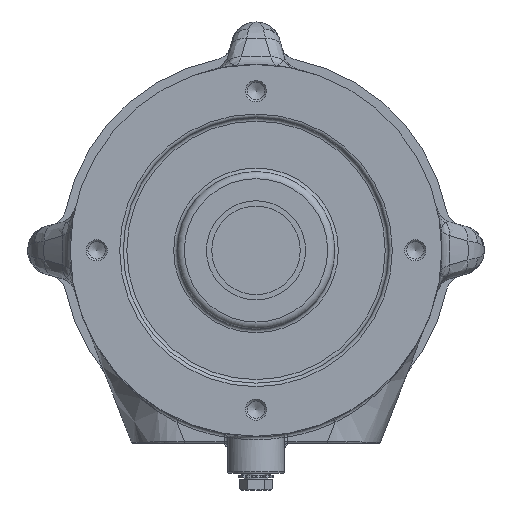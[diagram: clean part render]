
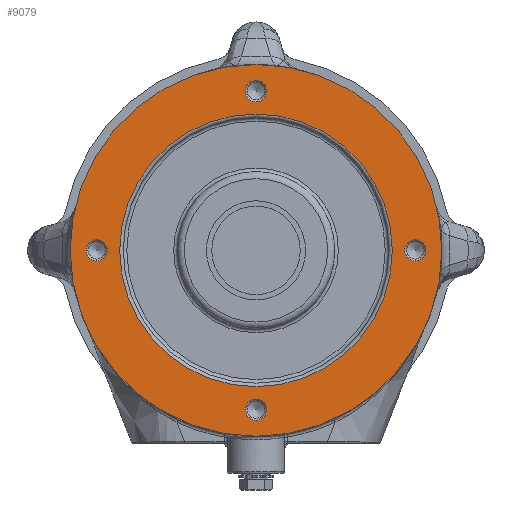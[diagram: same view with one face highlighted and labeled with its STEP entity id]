
A CAD part, left-side view. The second image highlights one B-rep face of the part: STEP entity #9079.
In plain terms, the highlighted planar face has unit normal (-1, 0, 0).
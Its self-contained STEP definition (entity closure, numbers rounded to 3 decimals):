
#532=FACE_BOUND('',#1971,.T.);
#533=FACE_BOUND('',#1972,.T.);
#534=FACE_BOUND('',#1973,.T.);
#535=FACE_BOUND('',#1974,.T.);
#536=FACE_BOUND('',#1975,.T.);
#1104=PLANE('',#9705);
#1416=FACE_OUTER_BOUND('',#1970,.T.);
#1970=EDGE_LOOP('',(#6397));
#1971=EDGE_LOOP('',(#6398));
#1972=EDGE_LOOP('',(#6399));
#1973=EDGE_LOOP('',(#6400));
#1974=EDGE_LOOP('',(#6401));
#1975=EDGE_LOOP('',(#6402));
#3433=CIRCLE('',#9667,52.5);
#3459=CIRCLE('',#9703,38.5);
#3461=CIRCLE('',#9706,3.);
#3462=CIRCLE('',#9707,3.);
#3463=CIRCLE('',#9708,3.);
#3464=CIRCLE('',#9709,3.);
#4042=VERTEX_POINT('',#13385);
#4099=VERTEX_POINT('',#13656);
#4100=VERTEX_POINT('',#13660);
#4101=VERTEX_POINT('',#13662);
#4102=VERTEX_POINT('',#13664);
#4103=VERTEX_POINT('',#13666);
#4914=EDGE_CURVE('',#4042,#4042,#3433,.T.);
#4980=EDGE_CURVE('',#4099,#4099,#3459,.T.);
#4982=EDGE_CURVE('',#4100,#4100,#3461,.T.);
#4983=EDGE_CURVE('',#4101,#4101,#3462,.T.);
#4984=EDGE_CURVE('',#4102,#4102,#3463,.T.);
#4985=EDGE_CURVE('',#4103,#4103,#3464,.T.);
#6397=ORIENTED_EDGE('',*,*,#4914,.F.);
#6398=ORIENTED_EDGE('',*,*,#4982,.T.);
#6399=ORIENTED_EDGE('',*,*,#4983,.T.);
#6400=ORIENTED_EDGE('',*,*,#4984,.T.);
#6401=ORIENTED_EDGE('',*,*,#4985,.T.);
#6402=ORIENTED_EDGE('',*,*,#4980,.F.);
#9079=ADVANCED_FACE('',(#1416,#532,#533,#534,#535,#536),#1104,.T.);
#9667=AXIS2_PLACEMENT_3D('',#13387,#10799,#10800);
#9703=AXIS2_PLACEMENT_3D('',#13657,#10890,#10891);
#9705=AXIS2_PLACEMENT_3D('',#13659,#10894,#10895);
#9706=AXIS2_PLACEMENT_3D('',#13661,#10896,#10897);
#9707=AXIS2_PLACEMENT_3D('',#13663,#10898,#10899);
#9708=AXIS2_PLACEMENT_3D('',#13665,#10900,#10901);
#9709=AXIS2_PLACEMENT_3D('',#13667,#10902,#10903);
#10799=DIRECTION('center_axis',(1.,0.,0.));
#10800=DIRECTION('ref_axis',(0.,-1.,0.));
#10890=DIRECTION('center_axis',(-1.,0.,0.));
#10891=DIRECTION('ref_axis',(0.,1.,0.));
#10894=DIRECTION('center_axis',(-1.,0.,0.));
#10895=DIRECTION('ref_axis',(0.,0.,-1.));
#10896=DIRECTION('center_axis',(1.,0.,0.));
#10897=DIRECTION('ref_axis',(0.,0.,-1.));
#10898=DIRECTION('center_axis',(1.,0.,0.));
#10899=DIRECTION('ref_axis',(0.,-1.,0.));
#10900=DIRECTION('center_axis',(1.,0.,0.));
#10901=DIRECTION('ref_axis',(0.,0.,
1.));
#10902=DIRECTION('center_axis',(1.,0.,0.));
#10903=DIRECTION('ref_axis',(0.,1.,0.));
#13385=CARTESIAN_POINT('',(-102.,52.5,0.));
#13387=CARTESIAN_POINT('Origin',(-102.,0.,0.));
#13656=CARTESIAN_POINT('',(-102.,0.,-38.5));
#13657=CARTESIAN_POINT('Origin',(-102.,0.,0.));
#13659=CARTESIAN_POINT('Origin',(-102.,-45.,0.));
#13660=CARTESIAN_POINT('',(-102.,45.,3.));
#13661=CARTESIAN_POINT('Origin',(-102.,45.,0.));
#13662=CARTESIAN_POINT('',(-102.,3.,-45.));
#13663=CARTESIAN_POINT('Origin',(-102.,0.,-45.));
#13664=CARTESIAN_POINT('',(-102.,-45.,-3.));
#13665=CARTESIAN_POINT('Origin',(-102.,-45.,0.));
#13666=CARTESIAN_POINT('',(-102.,-3.,45.));
#13667=CARTESIAN_POINT('Origin',(-102.,0.,45.));
